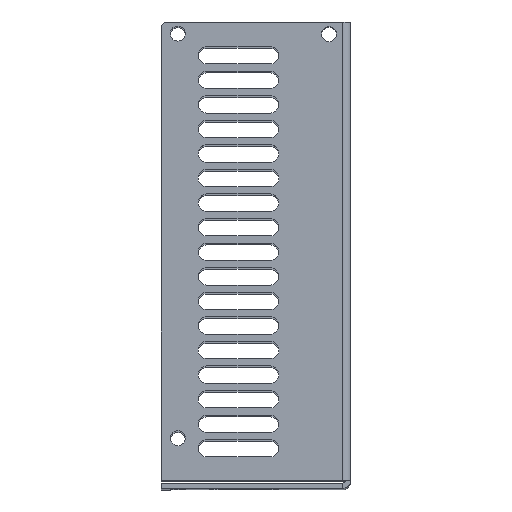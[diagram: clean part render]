
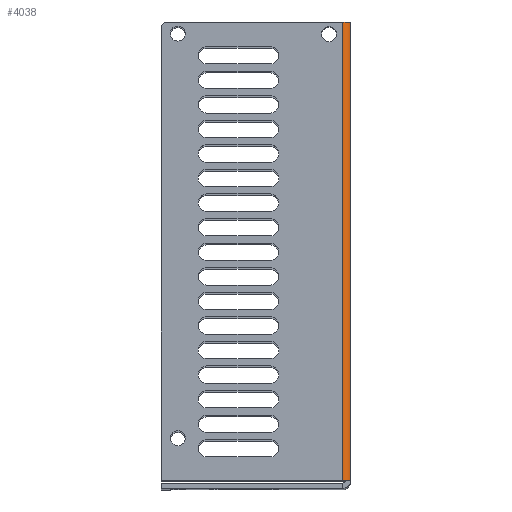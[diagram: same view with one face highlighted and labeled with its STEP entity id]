
A CAD part, top view. The second image highlights one B-rep face of the part: STEP entity #4038.
In plain terms, the highlighted cylindrical face has radius 2.8 mm (diameter 5.6 mm), a partial arc.
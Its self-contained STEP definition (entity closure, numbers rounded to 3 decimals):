
#1681 = VERTEX_POINT ( 'NONE', #21538 ) ;
#1860 = ORIENTED_EDGE ( 'NONE', *, *, #12722, .F. ) ;
#2740 = DIRECTION ( 'NONE',  ( 0., -1., 0. ) ) ;
#3030 = CYLINDRICAL_SURFACE ( 'NONE', #20236, 2.8 ) ;
#3916 = CARTESIAN_POINT ( 'NONE',  ( 69.5, 0., -1. ) ) ;
#4038 = ADVANCED_FACE ( 'NONE', ( #9240 ), #3030, .T. ) ;
#5315 = CARTESIAN_POINT ( 'NONE',  ( 66.7, 8.163, -1. ) ) ;
#5462 = CARTESIAN_POINT ( 'NONE',  ( 66.7, 166.663, 1.8 ) ) ;
#6025 = CARTESIAN_POINT ( 'NONE',  ( 66.7, 166.663, -1. ) ) ;
#6965 = CIRCLE ( 'NONE', #20862, 2.8 ) ;
#7028 = VERTEX_POINT ( 'NONE', #18244 ) ;
#7056 = DIRECTION ( 'NONE',  ( 0., 0., -1. ) ) ;
#7776 = DIRECTION ( 'NONE',  ( 0., 0., -1. ) ) ;
#9231 = VERTEX_POINT ( 'NONE', #22181 ) ;
#9240 = FACE_OUTER_BOUND ( 'NONE', #16856, .T. ) ;
#9596 = CARTESIAN_POINT ( 'NONE',  ( 66.7, 8.163, -1. ) ) ;
#11582 = ORIENTED_EDGE ( 'NONE', *, *, #12802, .F. ) ;
#12184 = AXIS2_PLACEMENT_3D ( 'NONE', #5315, #17371, #7056 ) ;
#12392 = DIRECTION ( 'NONE',  ( 0., 1., 0. ) ) ;
#12484 = LINE ( 'NONE', #5462, #16558 ) ;
#12722 = EDGE_CURVE ( 'NONE', #7028, #1681, #14096, .T. ) ;
#12802 = EDGE_CURVE ( 'NONE', #1681, #9231, #12484, .T. ) ;
#12890 = VERTEX_POINT ( 'NONE', #14343 ) ;
#14096 = CIRCLE ( 'NONE', #12184, 2.8 ) ;
#14243 = DIRECTION ( 'NONE',  ( 0., -1., 0. ) ) ;
#14246 = VECTOR ( 'NONE', #14243, 1000. ) ;
#14272 = ORIENTED_EDGE ( 'NONE', *, *, #17644, .F. ) ;
#14343 = CARTESIAN_POINT ( 'NONE',  ( 69.5, 166.663, -1. ) ) ;
#16558 = VECTOR ( 'NONE', #12392, 1000. ) ;
#16856 = EDGE_LOOP ( 'NONE', ( #11582, #1860, #19618, #14272 ) ) ;
#17371 = DIRECTION ( 'NONE',  ( 0., -1., 0. ) ) ;
#17511 = EDGE_CURVE ( 'NONE', #12890, #7028, #18285, .T. ) ;
#17537 = DIRECTION ( 'NONE',  ( 1., 0., 0. ) ) ;
#17644 = EDGE_CURVE ( 'NONE', #9231, #12890, #6965, .T. ) ;
#18074 = DIRECTION ( 'NONE',  ( 0., 1., 0. ) ) ;
#18244 = CARTESIAN_POINT ( 'NONE',  ( 69.5, 8.163, -1. ) ) ;
#18285 = LINE ( 'NONE', #3916, #14246 ) ;
#19618 = ORIENTED_EDGE ( 'NONE', *, *, #17511, .F. ) ;
#20236 = AXIS2_PLACEMENT_3D ( 'NONE', #9596, #2740, #17537 ) ;
#20862 = AXIS2_PLACEMENT_3D ( 'NONE', #6025, #18074, #7776 ) ;
#21538 = CARTESIAN_POINT ( 'NONE',  ( 66.7, 8.163, 1.8 ) ) ;
#22181 = CARTESIAN_POINT ( 'NONE',  ( 66.7, 166.663, 1.8 ) ) ;
